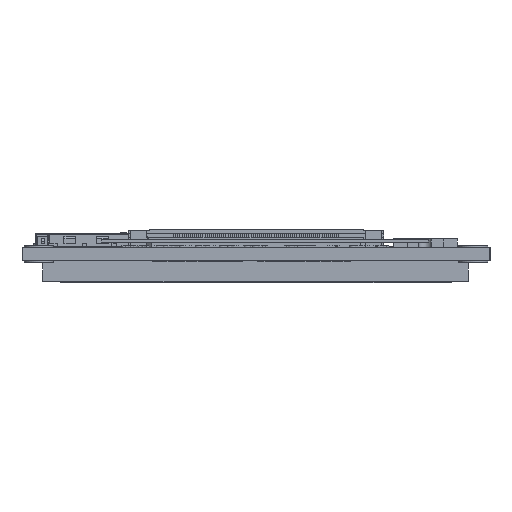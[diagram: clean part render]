
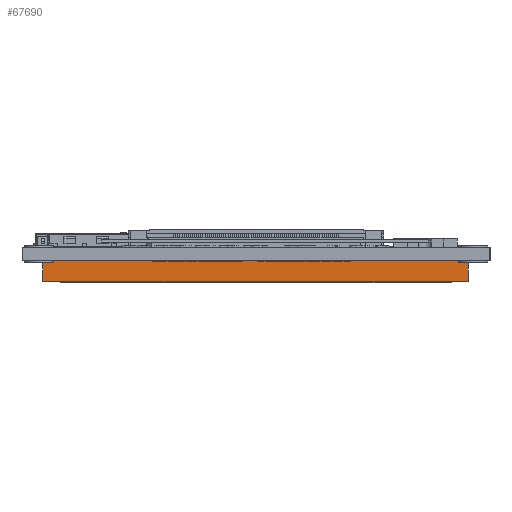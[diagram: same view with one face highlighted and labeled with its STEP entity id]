
A CAD part, front view. The second image highlights one B-rep face of the part: STEP entity #67690.
In plain terms, the highlighted free-form (B-spline) face has degree [1, 1] with [2, 2] control points.
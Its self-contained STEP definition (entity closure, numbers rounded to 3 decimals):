
#108=(GEOMETRIC_REPRESENTATION_CONTEXT(2)PARAMETRIC_REPRESENTATION_CONTEXT()REPRESENTATION_CONTEXT('',''));
#45666=CARTESIAN_POINT('',(-28.,0.,-0.8));
#45667=CARTESIAN_POINT('',(-28.,69.7,-0.8));
#45668=CARTESIAN_POINT('',(28.,0.,-0.8));
#45669=CARTESIAN_POINT('',(28.,69.7,-0.8));
#45670=B_SPLINE_SURFACE_WITH_KNOTS('',1,1,((#45666,#45667),(#45668,#45669)),.UNSPECIFIED.,.F.,.F.,.U.,(2,2),(2,2),(-0.028,0.028),(0.,0.07),.UNSPECIFIED.);
#51268=CARTESIAN_POINT('',(21.2,5.35,-0.8));
#51269=VERTEX_POINT('',#51268);
#51291=CARTESIAN_POINT('',(25.4,5.35,-0.8));
#51292=VERTEX_POINT('',#51291);
#51293=CARTESIAN_POINT('',(-25.5,5.35,-0.8));
#51294=CARTESIAN_POINT('',(25.4,5.35,-0.8));
#51295=CARTESIAN_POINT('',(-25.5,5.35,-3.3));
#51296=CARTESIAN_POINT('',(25.4,5.35,-3.3));
#51297=B_SPLINE_SURFACE_WITH_KNOTS('',1,1,((#51293,#51294),(#51295,#51296)),.UNSPECIFIED.,.F.,.F.,.U.,(2,2),(2,2),(-0.003,0.),(-0.025,0.025),.UNSPECIFIED.);
#51298=CARTESIAN_POINT('',(0.021,0.005));
#51299=CARTESIAN_POINT('',(0.025,0.005));
#51300=B_SPLINE_CURVE_WITH_KNOTS('',1,(#51298,#51299),.UNSPECIFIED.,.F.,.F.,(2,2),(0.021,0.025),.UNSPECIFIED.);
#51301=DEFINITIONAL_REPRESENTATION('',(#51300),#108);
#51302=PCURVE('',#45670,#51301);
#51303=CARTESIAN_POINT('',(-0.003,0.021));
#51304=CARTESIAN_POINT('',(-0.003,0.025));
#51305=B_SPLINE_CURVE_WITH_KNOTS('',1,(#51303,#51304),.UNSPECIFIED.,.F.,.F.,(2,2),(0.021,0.025),.UNSPECIFIED.);
#51306=DEFINITIONAL_REPRESENTATION('',(#51305),#108);
#51307=PCURVE('',#51297,#51306);
#51308=CARTESIAN_POINT('',(21.2,5.35,-0.8));
#51309=CARTESIAN_POINT('',(25.4,5.35,-0.8));
#51310=B_SPLINE_CURVE_WITH_KNOTS('',1,(#51308,#51309),.UNSPECIFIED.,.F.,.F.,(2,2),(0.021,0.025),.UNSPECIFIED.);
#51311=INTERSECTION_CURVE('',#51310,(#51302,#51307),.PCURVE_S1.);
#51312=EDGE_CURVE('',#51269,#51292,#51311,.T.);
#51316=CARTESIAN_POINT('',(25.4,5.35,-0.8));
#51317=CARTESIAN_POINT('',(25.4,51.15,-0.8));
#51318=CARTESIAN_POINT('',(25.4,5.35,-3.3));
#51319=CARTESIAN_POINT('',(25.4,51.15,-3.3));
#51320=B_SPLINE_SURFACE_WITH_KNOTS('',1,1,((#51316,#51317),(#51318,#51319)),.UNSPECIFIED.,.F.,.F.,.U.,(2,2),(2,2),(-0.003,0.),(0.005,0.051),.UNSPECIFIED.);
#51360=CARTESIAN_POINT('',(-25.5,5.35,-0.8));
#51361=VERTEX_POINT('',#51360);
#51362=CARTESIAN_POINT('',(-25.5,51.15,-3.3));
#51363=CARTESIAN_POINT('',(-25.5,51.15,-0.8));
#51364=CARTESIAN_POINT('',(-25.5,5.35,-3.3));
#51365=CARTESIAN_POINT('',(-25.5,5.35,-0.8));
#51366=B_SPLINE_SURFACE_WITH_KNOTS('',1,1,((#51362,#51363),(#51364,#51365)),.UNSPECIFIED.,.F.,.F.,.U.,(2,2),(2,2),(-0.051,-0.005),(0.,0.003),.UNSPECIFIED.);
#51383=CARTESIAN_POINT('',(-19.5,5.35,-0.8));
#51384=VERTEX_POINT('',#51383);
#51385=CARTESIAN_POINT('',(-0.025,0.005));
#51386=CARTESIAN_POINT('',(-0.019,0.005));
#51387=B_SPLINE_CURVE_WITH_KNOTS('',1,(#51385,#51386),.UNSPECIFIED.,.F.,.F.,(2,2),(-0.025,-0.019),.UNSPECIFIED.);
#51388=DEFINITIONAL_REPRESENTATION('',(#51387),#108);
#51389=PCURVE('',#45670,#51388);
#51390=CARTESIAN_POINT('',(-0.003,-0.025));
#51391=CARTESIAN_POINT('',(-0.003,-0.019));
#51392=B_SPLINE_CURVE_WITH_KNOTS('',1,(#51390,#51391),.UNSPECIFIED.,.F.,.F.,(2,2),(-0.025,-0.019),.UNSPECIFIED.);
#51393=DEFINITIONAL_REPRESENTATION('',(#51392),#108);
#51394=PCURVE('',#51297,#51393);
#51395=CARTESIAN_POINT('',(-25.5,5.35,-0.8));
#51396=CARTESIAN_POINT('',(-19.5,5.35,-0.8));
#51397=B_SPLINE_CURVE_WITH_KNOTS('',1,(#51395,#51396),.UNSPECIFIED.,.F.,.F.,(2,2),(-0.025,-0.019),.UNSPECIFIED.);
#51398=INTERSECTION_CURVE('',#51397,(#51389,#51394),.PCURVE_S1.);
#51399=EDGE_CURVE('',#51361,#51384,#51398,.T.);
#67551=CARTESIAN_POINT('',(25.4,5.35,-3.3));
#67552=CARTESIAN_POINT('',(25.4,51.15,-3.3));
#67553=CARTESIAN_POINT('',(-25.5,5.35,-3.3));
#67554=CARTESIAN_POINT('',(-25.5,51.15,-3.3));
#67555=B_SPLINE_SURFACE_WITH_KNOTS('',1,1,((#67551,#67552),(#67553,#67554)),.UNSPECIFIED.,.F.,.F.,.U.,(2,2),(2,2),(-0.025,0.025),(0.005,0.051),.UNSPECIFIED.);
#67592=CARTESIAN_POINT('',(25.4,5.35,-3.3));
#67593=VERTEX_POINT('',#67592);
#67594=CARTESIAN_POINT('',(0.,0.005));
#67595=CARTESIAN_POINT('',(-0.003,0.005));
#67596=B_SPLINE_CURVE_WITH_KNOTS('',1,(#67594,#67595),.UNSPECIFIED.,.F.,.F.,(2,2),(0.,0.003),.UNSPECIFIED.);
#67597=DEFINITIONAL_REPRESENTATION('',(#67596),#108);
#67598=PCURVE('',#51320,#67597);
#67599=CARTESIAN_POINT('',(0.,0.025));
#67600=CARTESIAN_POINT('',(-0.003,0.025));
#67601=B_SPLINE_CURVE_WITH_KNOTS('',1,(#67599,#67600),.UNSPECIFIED.,.F.,.F.,(2,2),(0.,0.003),.UNSPECIFIED.);
#67602=DEFINITIONAL_REPRESENTATION('',(#67601),#108);
#67603=PCURVE('',#51297,#67602);
#67604=CARTESIAN_POINT('',(25.4,5.35,-3.3));
#67605=CARTESIAN_POINT('',(25.4,5.35,-0.8));
#67606=B_SPLINE_CURVE_WITH_KNOTS('',1,(#67604,#67605),.UNSPECIFIED.,.F.,.F.,(2,2),(0.,0.003),.UNSPECIFIED.);
#67607=INTERSECTION_CURVE('',#67606,(#67598,#67603),.PCURVE_S1.);
#67608=EDGE_CURVE('',#67593,#51292,#67607,.T.);
#67630=ORIENTED_EDGE('',*,*,#51399,.F.);
#67631=CARTESIAN_POINT('',(-25.5,5.35,-3.3));
#67632=VERTEX_POINT('',#67631);
#67633=CARTESIAN_POINT('',(-0.,-0.025));
#67634=CARTESIAN_POINT('',(-0.003,-0.025));
#67635=B_SPLINE_CURVE_WITH_KNOTS('',1,(#67633,#67634),.UNSPECIFIED.,.F.,.F.,(2,2),(0.,0.003),.UNSPECIFIED.);
#67636=DEFINITIONAL_REPRESENTATION('',(#67635),#108);
#67637=PCURVE('',#51297,#67636);
#67638=CARTESIAN_POINT('',(-0.005,0.));
#67639=CARTESIAN_POINT('',(-0.005,0.003));
#67640=B_SPLINE_CURVE_WITH_KNOTS('',1,(#67638,#67639),.UNSPECIFIED.,.F.,.F.,(2,2),(0.,0.003),.UNSPECIFIED.);
#67641=DEFINITIONAL_REPRESENTATION('',(#67640),#108);
#67642=PCURVE('',#51366,#67641);
#67643=CARTESIAN_POINT('',(-25.5,5.35,-3.3));
#67644=CARTESIAN_POINT('',(-25.5,5.35,-0.8));
#67645=B_SPLINE_CURVE_WITH_KNOTS('',1,(#67643,#67644),.UNSPECIFIED.,.F.,.F.,(2,2),(0.,0.003),.UNSPECIFIED.);
#67646=INTERSECTION_CURVE('',#67645,(#67637,#67642),.PCURVE_S1.);
#67647=EDGE_CURVE('',#67632,#51361,#67646,.T.);
#67648=ORIENTED_EDGE('',*,*,#67647,.F.);
#67649=CARTESIAN_POINT('',(-0.,-0.025));
#67650=CARTESIAN_POINT('',(0.,0.025));
#67651=B_SPLINE_CURVE_WITH_KNOTS('',1,(#67649,#67650),.UNSPECIFIED.,.F.,.F.,(2,2),(-0.025,0.025),.UNSPECIFIED.);
#67652=DEFINITIONAL_REPRESENTATION('',(#67651),#108);
#67653=PCURVE('',#51297,#67652);
#67654=CARTESIAN_POINT('',(0.025,0.005));
#67655=CARTESIAN_POINT('',(-0.025,0.005));
#67656=B_SPLINE_CURVE_WITH_KNOTS('',1,(#67654,#67655),.UNSPECIFIED.,.F.,.F.,(2,2),(-0.025,0.025),.UNSPECIFIED.);
#67657=DEFINITIONAL_REPRESENTATION('',(#67656),#108);
#67658=PCURVE('',#67555,#67657);
#67659=CARTESIAN_POINT('',(-25.5,5.35,-3.3));
#67660=CARTESIAN_POINT('',(25.4,5.35,-3.3));
#67661=B_SPLINE_CURVE_WITH_KNOTS('',1,(#67659,#67660),.UNSPECIFIED.,.F.,.F.,(2,2),(-0.025,0.025),.UNSPECIFIED.);
#67662=INTERSECTION_CURVE('',#67661,(#67653,#67658),.PCURVE_S1.);
#67663=EDGE_CURVE('',#67632,#67593,#67662,.T.);
#67664=ORIENTED_EDGE('',*,*,#67663,.T.);
#67665=ORIENTED_EDGE('',*,*,#67608,.T.);
#67666=ORIENTED_EDGE('',*,*,#51312,.F.);
#67667=CARTESIAN_POINT('',(-19.5,5.35,-0.8));
#67668=CARTESIAN_POINT('',(-19.5,9.35,-0.8));
#67669=CARTESIAN_POINT('',(21.2,5.35,-0.8));
#67670=CARTESIAN_POINT('',(21.2,9.35,-0.8));
#67671=B_SPLINE_SURFACE_WITH_KNOTS('',1,1,((#67667,#67668),(#67669,#67670)),.UNSPECIFIED.,.F.,.F.,.U.,(2,2),(2,2),(-0.019,0.021),(0.005,0.009),.UNSPECIFIED.);
#67672=CARTESIAN_POINT('',(-0.003,-0.019));
#67673=CARTESIAN_POINT('',(-0.003,0.021));
#67674=B_SPLINE_CURVE_WITH_KNOTS('',1,(#67672,#67673),.UNSPECIFIED.,.F.,.F.,(2,2),(-0.019,0.021),.UNSPECIFIED.);
#67675=DEFINITIONAL_REPRESENTATION('',(#67674),#108);
#67676=PCURVE('',#51297,#67675);
#67677=CARTESIAN_POINT('',(-0.019,0.005));
#67678=CARTESIAN_POINT('',(0.021,0.005));
#67679=B_SPLINE_CURVE_WITH_KNOTS('',1,(#67677,#67678),.UNSPECIFIED.,.F.,.F.,(2,2),(-0.019,0.021),.UNSPECIFIED.);
#67680=DEFINITIONAL_REPRESENTATION('',(#67679),#108);
#67681=PCURVE('',#67671,#67680);
#67682=CARTESIAN_POINT('',(-19.5,5.35,-0.8));
#67683=CARTESIAN_POINT('',(21.2,5.35,-0.8));
#67684=B_SPLINE_CURVE_WITH_KNOTS('',1,(#67682,#67683),.UNSPECIFIED.,.F.,.F.,(2,2),(-0.019,0.021),.UNSPECIFIED.);
#67685=INTERSECTION_CURVE('',#67684,(#67676,#67681),.PCURVE_S1.);
#67686=EDGE_CURVE('',#51384,#51269,#67685,.T.);
#67687=ORIENTED_EDGE('',*,*,#67686,.F.);
#67688=EDGE_LOOP('',(#67630,#67648,#67664,#67665,#67666,#67687));
#67689=FACE_BOUND('',#67688,.T.);
#67690=ADVANCED_FACE('',(#67689),#51297,.T.);
